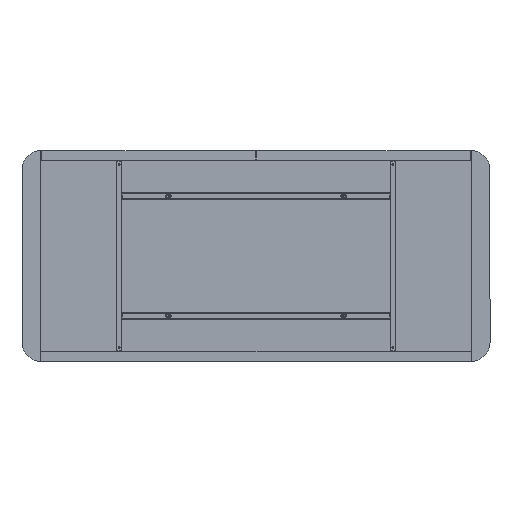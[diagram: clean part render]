
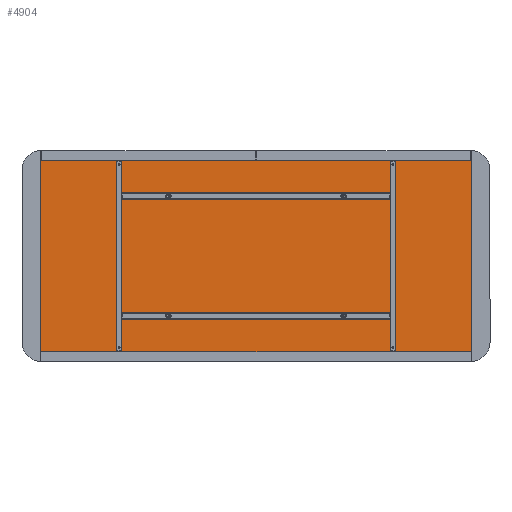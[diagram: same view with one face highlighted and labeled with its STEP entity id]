
A CAD part, front view. The second image highlights one B-rep face of the part: STEP entity #4904.
In plain terms, the highlighted planar face has unit normal (0, -1, 0).
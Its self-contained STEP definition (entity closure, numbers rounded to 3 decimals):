
#88 = CARTESIAN_POINT ( 'NONE',  ( -187.5, 0., -124.5 ) ) ;
#123 = CARTESIAN_POINT ( 'NONE',  ( -187.5, 0., 127.5 ) ) ;
#147 = VERTEX_POINT ( 'NONE', #3835 ) ;
#151 = FACE_OUTER_BOUND ( 'NONE', #3064, .T. ) ;
#152 = CARTESIAN_POINT ( 'NONE',  ( 187.5, 0., 127.5 ) ) ;
#223 = PLANE ( 'NONE',  #278 ) ;
#278 = AXIS2_PLACEMENT_3D ( 'NONE', #4103, #6710, #2408 ) ;
#317 = CARTESIAN_POINT ( 'NONE',  ( -187.5, 0., -127.5 ) ) ;
#345 = ORIENTED_EDGE ( 'NONE', *, *, #2222, .T. ) ;
#351 = CARTESIAN_POINT ( 'NONE',  ( 187.5, 0., -127.5 ) ) ;
#504 = CARTESIAN_POINT ( 'NONE',  ( -187.5, 0., 127.5 ) ) ;
#533 = EDGE_LOOP ( 'NONE', ( #2339, #3159 ) ) ;
#645 = CIRCLE ( 'NONE', #2131, 3. ) ;
#715 = ORIENTED_EDGE ( 'NONE', *, *, #6110, .F. ) ;
#752 = VECTOR ( 'NONE', #4125, 1000. ) ;
#823 = EDGE_CURVE ( 'NONE', #2823, #1835, #645, .T. ) ;
#866 = ORIENTED_EDGE ( 'NONE', *, *, #823, .F. ) ;
#867 = EDGE_CURVE ( 'NONE', #5389, #6693, #3519, .T. ) ;
#1018 = DIRECTION ( 'NONE',  ( 0., 0., -1. ) ) ;
#1021 = ORIENTED_EDGE ( 'NONE', *, *, #2898, .F. ) ;
#1027 = DIRECTION ( 'NONE',  ( 0., 0., -1. ) ) ;
#1197 = AXIS2_PLACEMENT_3D ( 'NONE', #4297, #6506, #1027 ) ;
#1273 = EDGE_LOOP ( 'NONE', ( #5277, #3099 ) ) ;
#1280 = CARTESIAN_POINT ( 'NONE',  ( 0., 0., -205. ) ) ;
#1317 = DIRECTION ( 'NONE',  ( 0., 0., -1. ) ) ;
#1346 = DIRECTION ( 'NONE',  ( 0., -1., 0. ) ) ;
#1461 = CARTESIAN_POINT ( 'NONE',  ( 187.5, 0., -124.5 ) ) ;
#1466 = EDGE_CURVE ( 'NONE', #7029, #5215, #1592, .T. ) ;
#1568 = CARTESIAN_POINT ( 'NONE',  ( 460., 0., -205. ) ) ;
#1592 = CIRCLE ( 'NONE', #6194, 3. ) ;
#1835 = VERTEX_POINT ( 'NONE', #88 ) ;
#2050 = VECTOR ( 'NONE', #3319, 1000. ) ;
#2112 = CARTESIAN_POINT ( 'NONE',  ( 187.5, 0., -130.5 ) ) ;
#2131 = AXIS2_PLACEMENT_3D ( 'NONE', #4900, #6526, #6607 ) ;
#2222 = EDGE_CURVE ( 'NONE', #6693, #147, #2291, .T. ) ;
#2269 = VERTEX_POINT ( 'NONE', #7134 ) ;
#2291 = LINE ( 'NONE', #3358, #2050 ) ;
#2339 = ORIENTED_EDGE ( 'NONE', *, *, #6716, .F. ) ;
#2408 = DIRECTION ( 'NONE',  ( 0., 0., 1. ) ) ;
#2512 = DIRECTION ( 'NONE',  ( 0., 0., -1. ) ) ;
#2545 = DIRECTION ( 'NONE',  ( 0., -1., 0. ) ) ;
#2574 = ORIENTED_EDGE ( 'NONE', *, *, #3068, .F. ) ;
#2648 = CARTESIAN_POINT ( 'NONE',  ( -460., 0., 203. ) ) ;
#2699 = EDGE_CURVE ( 'NONE', #5809, #5389, #4361, .T. ) ;
#2745 = CARTESIAN_POINT ( 'NONE',  ( -460., 0., 0. ) ) ;
#2823 = VERTEX_POINT ( 'NONE', #3802 ) ;
#2889 = VECTOR ( 'NONE', #1018, 1000. ) ;
#2898 = EDGE_CURVE ( 'NONE', #7046, #5411, #5297, .T. ) ;
#2948 = VECTOR ( 'NONE', #5631, 1000. ) ;
#3064 = EDGE_LOOP ( 'NONE', ( #4567, #4577, #345, #715 ) ) ;
#3068 = EDGE_CURVE ( 'NONE', #1835, #2823, #3683, .T. ) ;
#3089 = DIRECTION ( 'NONE',  ( 0., -1., 0. ) ) ;
#3099 = ORIENTED_EDGE ( 'NONE', *, *, #4318, .F. ) ;
#3125 = VERTEX_POINT ( 'NONE', #3743 ) ;
#3159 = ORIENTED_EDGE ( 'NONE', *, *, #4106, .F. ) ;
#3262 = CARTESIAN_POINT ( 'NONE',  ( 187.5, 0., 130.5 ) ) ;
#3319 = DIRECTION ( 'NONE',  ( 0., 0., 1. ) ) ;
#3350 = AXIS2_PLACEMENT_3D ( 'NONE', #317, #1346, #2512 ) ;
#3358 = CARTESIAN_POINT ( 'NONE',  ( 460., 0., 0. ) ) ;
#3470 = CARTESIAN_POINT ( 'NONE',  ( -500., 0., 203. ) ) ;
#3472 = CARTESIAN_POINT ( 'NONE',  ( 187.5, 0., 124.5 ) ) ;
#3509 = AXIS2_PLACEMENT_3D ( 'NONE', #504, #6074, #5063 ) ;
#3517 = FACE_BOUND ( 'NONE', #6874, .T. ) ;
#3519 = LINE ( 'NONE', #1280, #2948 ) ;
#3683 = CIRCLE ( 'NONE', #3350, 3. ) ;
#3743 = CARTESIAN_POINT ( 'NONE',  ( -187.5, 0., 130.5 ) ) ;
#3802 = CARTESIAN_POINT ( 'NONE',  ( -187.5, 0., -130.5 ) ) ;
#3835 = CARTESIAN_POINT ( 'NONE',  ( 460., 0., 203. ) ) ;
#3884 = EDGE_CURVE ( 'NONE', #5411, #7046, #4056, .T. ) ;
#4020 = LINE ( 'NONE', #3470, #752 ) ;
#4056 = CIRCLE ( 'NONE', #1197, 3. ) ;
#4096 = CIRCLE ( 'NONE', #3509, 3. ) ;
#4103 = CARTESIAN_POINT ( 'NONE',  ( 0., 0., 0. ) ) ;
#4106 = EDGE_CURVE ( 'NONE', #3125, #2269, #6145, .T. ) ;
#4125 = DIRECTION ( 'NONE',  ( 1., 0., 0. ) ) ;
#4297 = CARTESIAN_POINT ( 'NONE',  ( 187.5, 0., 127.5 ) ) ;
#4318 = EDGE_CURVE ( 'NONE', #5215, #7029, #4651, .T. ) ;
#4361 = LINE ( 'NONE', #2745, #2889 ) ;
#4503 = EDGE_LOOP ( 'NONE', ( #866, #2574 ) ) ;
#4550 = DIRECTION ( 'NONE',  ( 0., -1., 0. ) ) ;
#4567 = ORIENTED_EDGE ( 'NONE', *, *, #2699, .T. ) ;
#4577 = ORIENTED_EDGE ( 'NONE', *, *, #867, .T. ) ;
#4651 = CIRCLE ( 'NONE', #6613, 3. ) ;
#4754 = DIRECTION ( 'NONE',  ( 0., 0., -1. ) ) ;
#4900 = CARTESIAN_POINT ( 'NONE',  ( -187.5, 0., -127.5 ) ) ;
#4904 = ADVANCED_FACE ( 'NONE', ( #6243, #3517, #5741, #5054, #151 ), #223, .F. ) ;
#5054 = FACE_BOUND ( 'NONE', #4503, .T. ) ;
#5063 = DIRECTION ( 'NONE',  ( 0., 0., -1. ) ) ;
#5215 = VERTEX_POINT ( 'NONE', #1461 ) ;
#5277 = ORIENTED_EDGE ( 'NONE', *, *, #1466, .F. ) ;
#5294 = CARTESIAN_POINT ( 'NONE',  ( 187.5, 0., -127.5 ) ) ;
#5297 = CIRCLE ( 'NONE', #6359, 3. ) ;
#5389 = VERTEX_POINT ( 'NONE', #6674 ) ;
#5411 = VERTEX_POINT ( 'NONE', #3262 ) ;
#5631 = DIRECTION ( 'NONE',  ( 1., 0., 0. ) ) ;
#5668 = DIRECTION ( 'NONE',  ( 0., -1., 0. ) ) ;
#5741 = FACE_BOUND ( 'NONE', #1273, .T. ) ;
#5809 = VERTEX_POINT ( 'NONE', #2648 ) ;
#6074 = DIRECTION ( 'NONE',  ( 0., -1., 0. ) ) ;
#6110 = EDGE_CURVE ( 'NONE', #5809, #147, #4020, .T. ) ;
#6145 = CIRCLE ( 'NONE', #7068, 3. ) ;
#6194 = AXIS2_PLACEMENT_3D ( 'NONE', #5294, #3089, #6907 ) ;
#6243 = FACE_BOUND ( 'NONE', #533, .T. ) ;
#6359 = AXIS2_PLACEMENT_3D ( 'NONE', #152, #5668, #6753 ) ;
#6506 = DIRECTION ( 'NONE',  ( 0., -1., 0. ) ) ;
#6526 = DIRECTION ( 'NONE',  ( 0., -1., 0. ) ) ;
#6607 = DIRECTION ( 'NONE',  ( 0., 0., -1. ) ) ;
#6613 = AXIS2_PLACEMENT_3D ( 'NONE', #351, #2545, #4754 ) ;
#6674 = CARTESIAN_POINT ( 'NONE',  ( -460., 0., -205. ) ) ;
#6693 = VERTEX_POINT ( 'NONE', #1568 ) ;
#6710 = DIRECTION ( 'NONE',  ( 0., 1., 0. ) ) ;
#6716 = EDGE_CURVE ( 'NONE', #2269, #3125, #4096, .T. ) ;
#6753 = DIRECTION ( 'NONE',  ( 0., 0., -1. ) ) ;
#6874 = EDGE_LOOP ( 'NONE', ( #1021, #6893 ) ) ;
#6893 = ORIENTED_EDGE ( 'NONE', *, *, #3884, .F. ) ;
#6907 = DIRECTION ( 'NONE',  ( 0., 0., -1. ) ) ;
#7029 = VERTEX_POINT ( 'NONE', #2112 ) ;
#7046 = VERTEX_POINT ( 'NONE', #3472 ) ;
#7068 = AXIS2_PLACEMENT_3D ( 'NONE', #123, #4550, #1317 ) ;
#7134 = CARTESIAN_POINT ( 'NONE',  ( -187.5, 0., 124.5 ) ) ;
